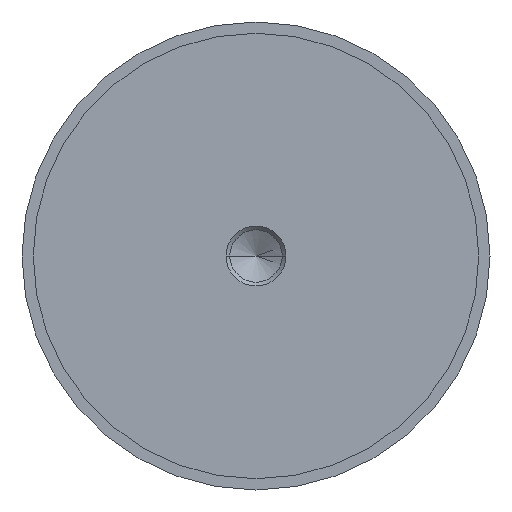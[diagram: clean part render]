
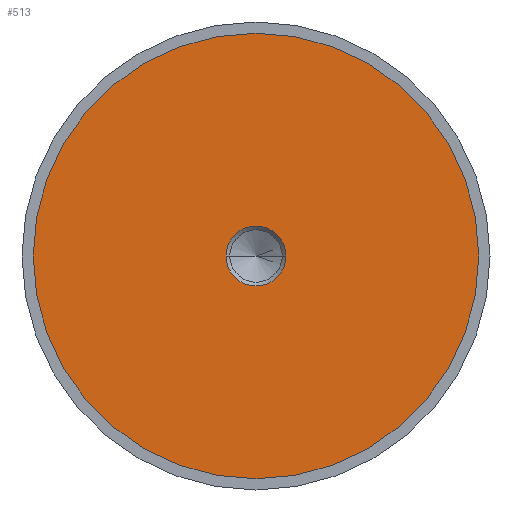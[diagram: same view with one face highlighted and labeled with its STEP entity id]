
A CAD part, left-side view. The second image highlights one B-rep face of the part: STEP entity #513.
In plain terms, the highlighted planar face has unit normal (-1, 0, 0).
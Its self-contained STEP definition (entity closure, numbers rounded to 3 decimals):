
#11 = CARTESIAN_POINT ( 'NONE',  ( -27.49, 0., 59.5 ) ) ;
#70 = CIRCLE ( 'NONE', #655, 7.99 ) ;
#90 = DIRECTION ( 'NONE',  ( 1., 0., 0. ) ) ;
#102 = VERTEX_POINT ( 'NONE', #753 ) ;
#103 = DIRECTION ( 'NONE',  ( 0., 0., 1. ) ) ;
#113 = DIRECTION ( 'NONE',  ( 0., 0., -1. ) ) ;
#137 = ORIENTED_EDGE ( 'NONE', *, *, #417, .T. ) ;
#145 = EDGE_CURVE ( 'NONE', #102, #287, #739, .T. ) ;
#152 = FACE_BOUND ( 'NONE', #480, .T. ) ;
#160 = AXIS2_PLACEMENT_3D ( 'NONE', #697, #90, #343 ) ;
#175 = CIRCLE ( 'NONE', #693, 59.5 ) ;
#221 = DIRECTION ( 'NONE',  ( 1., 0., 0. ) ) ;
#234 = EDGE_CURVE ( 'NONE', #291, #369, #70, .T. ) ;
#264 = CARTESIAN_POINT ( 'NONE',  ( -27.49, -7.99, 0. ) ) ;
#270 = FACE_OUTER_BOUND ( 'NONE', #394, .T. ) ;
#285 = CARTESIAN_POINT ( 'NONE',  ( -27.49, 0., 0. ) ) ;
#286 = DIRECTION ( 'NONE',  ( 0., 0., 1. ) ) ;
#287 = VERTEX_POINT ( 'NONE', #11 ) ;
#291 = VERTEX_POINT ( 'NONE', #264 ) ;
#300 = ORIENTED_EDGE ( 'NONE', *, *, #234, .T. ) ;
#320 = CIRCLE ( 'NONE', #531, 7.99 ) ;
#338 = DIRECTION ( 'NONE',  ( -1., 0., 0. ) ) ;
#343 = DIRECTION ( 'NONE',  ( 0., 0., -1. ) ) ;
#347 = AXIS2_PLACEMENT_3D ( 'NONE', #705, #415, #286 ) ;
#353 = ORIENTED_EDGE ( 'NONE', *, *, #467, .T. ) ;
#369 = VERTEX_POINT ( 'NONE', #443 ) ;
#394 = EDGE_LOOP ( 'NONE', ( #137, #773 ) ) ;
#415 = DIRECTION ( 'NONE',  ( -1., 0., 0. ) ) ;
#417 = EDGE_CURVE ( 'NONE', #287, #102, #175, .T. ) ;
#433 = CARTESIAN_POINT ( 'NONE',  ( -27.49, 0., 0. ) ) ;
#443 = CARTESIAN_POINT ( 'NONE',  ( -27.49, 7.99, 0. ) ) ;
#460 = PLANE ( 'NONE',  #160 ) ;
#467 = EDGE_CURVE ( 'NONE', #369, #291, #320, .T. ) ;
#480 = EDGE_LOOP ( 'NONE', ( #300, #353 ) ) ;
#513 = ADVANCED_FACE ( 'NONE', ( #152, #270 ), #460, .F. ) ;
#531 = AXIS2_PLACEMENT_3D ( 'NONE', #704, #221, #638 ) ;
#638 = DIRECTION ( 'NONE',  ( 0., 0., -1. ) ) ;
#655 = AXIS2_PLACEMENT_3D ( 'NONE', #433, #725, #113 ) ;
#693 = AXIS2_PLACEMENT_3D ( 'NONE', #285, #338, #103 ) ;
#697 = CARTESIAN_POINT ( 'NONE',  ( -27.49, 59.5, 0. ) ) ;
#704 = CARTESIAN_POINT ( 'NONE',  ( -27.49, 0., 0. ) ) ;
#705 = CARTESIAN_POINT ( 'NONE',  ( -27.49, 0., 0. ) ) ;
#725 = DIRECTION ( 'NONE',  ( 1., 0., 0. ) ) ;
#739 = CIRCLE ( 'NONE', #347, 59.5 ) ;
#753 = CARTESIAN_POINT ( 'NONE',  ( -27.49, 0., -59.5 ) ) ;
#773 = ORIENTED_EDGE ( 'NONE', *, *, #145, .T. ) ;
